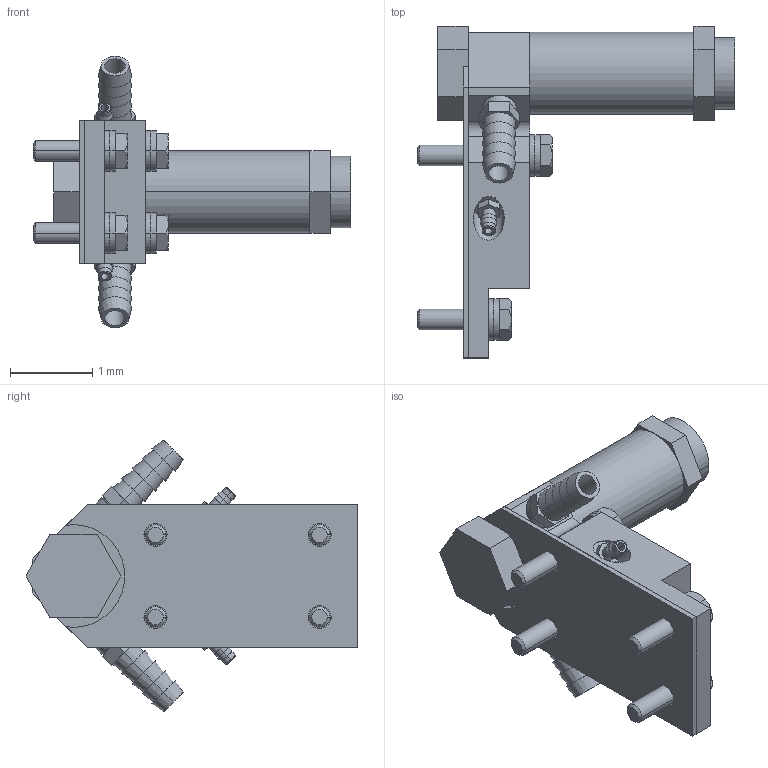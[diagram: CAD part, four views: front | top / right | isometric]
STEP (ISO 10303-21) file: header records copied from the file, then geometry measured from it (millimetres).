
FILE_DESCRIPTION((''),'2;1');
FILE_NAME('XMR2.stp','2017-11-07T12:50:18',(''),(''),'Mechanical Desktop 2011','Mechanical Desktop 2011',', , ');
FILE_SCHEMA(('CONFIG_CONTROL_DESIGN'));
Length unit declared in the file: millimetre
Products named in the file (1): Product
Bounding box: 3.88 x 4.04 x 3.31 mm (x, y, z)
Volume: 6.8 mm3; surface area: 69.8 mm2
Topology: 23 solids, 23 shells, 354 faces, 767 edges, 493 vertices
Faces by surface type: plane 131, cylinder 96, cone 62, bspline 61, torus 4
Full cylindrical faces by diameter (mm): 0.375 x1
Entity records: 10620 total; most frequent: CARTESIAN_POINT 2764, DIRECTION 1650, ORIENTED_EDGE 1534, EDGE_CURVE 767, AXIS2_PLACEMENT_3D 639, VERTEX_POINT 493, EDGE_LOOP 432, VECTOR 372
